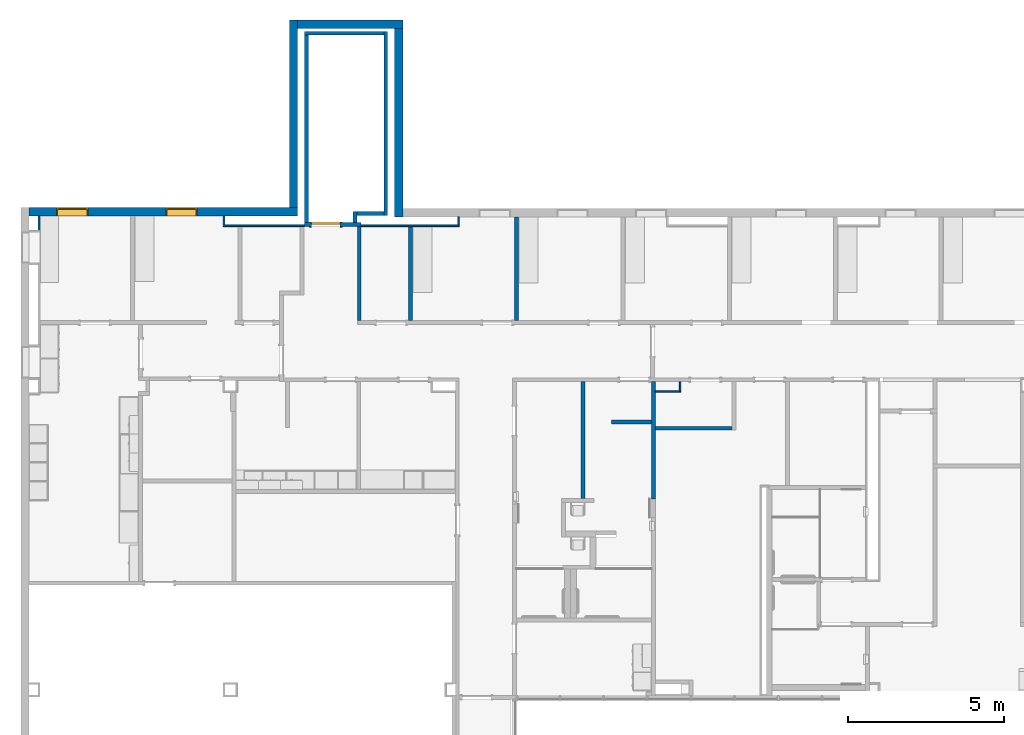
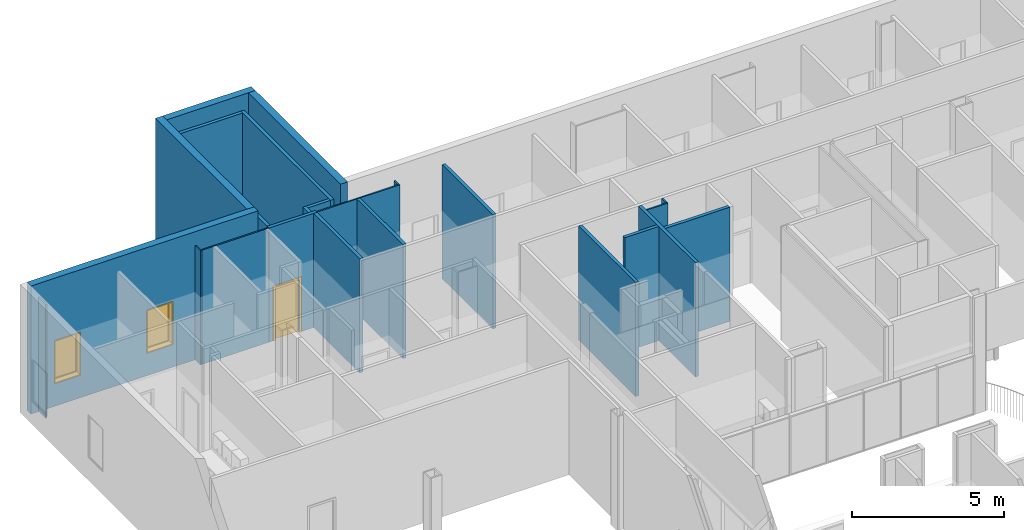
# One storey, part 21 of 47: 24 walls, 2 windows, 1 door, 3 openings.
"""IFC2X3 building model written with IfcOpenShell, lengths in metres."""

from ifc_helpers import new_model, entity, si_unit, converted_unit, frame, frame_2d, origin, origin_2d_with_axis, place, context, project, spatial, polyline, rectangle, outline, extrude, source, transform, mapped, material, layer, layer_set, layer_usage, type_object, type_shapes, element, fill, save


model = new_model("IFC2X3")

# Units and contexts
model_context = context("Model", 3, precision=1e-09, world=origin())
plan_context = context("Plan", 3, precision=1e-09, world=origin())
ifc_project = project(units=[si_unit("LENGTHUNIT", "METRE"), si_unit("AREAUNIT", "SQUARE_METRE"), si_unit("VOLUMEUNIT", "CUBIC_METRE"), converted_unit("PLANEANGLEUNIT", "DEGREE", entity("IfcRatioMeasure", 0.01745329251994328), si_unit("PLANEANGLEUNIT", "RADIAN"), dimensions=[0, 0, 0, 0, 0, 0, 0]), si_unit("TIMEUNIT", "SECOND")], contexts=[model_context, plan_context])

# Site, building, storey
site_placement = place(None, origin())
site = spatial("IfcSite", under=ifc_project, at=site_placement, Name="Default", CompositionType="ELEMENT")
building_placement = place(site_placement, origin())
building = spatial("IfcBuilding", under=site, at=building_placement, CompositionType="ELEMENT")
storey_placement = place(building_placement, frame((0.0, 0.0, 4.570000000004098)))
storey = spatial("IfcBuildingStorey", under=building, at=storey_placement, Name="Second Floor", CompositionType="ELEMENT", Elevation=4.570000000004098)

# Wall, openings, windows
ifc_material_1 = material(Name="Insulation - Insulated Panel")
ifc_layer_1 = layer(ifc_material_1, 0.042)
ifc_material_2 = material(Name="Metal - Firring")
ifc_layer_2 = layer(ifc_material_2, 0.038)
ifc_material_3 = material(Name="Wood - Sheathing - plywood")
ifc_layer_3 = layer(ifc_material_3, 0.019)
ifc_material_4 = material(Name="Metal - Stud Layer")
ifc_layer_4 = layer(ifc_material_4, 0.152)
ifc_material_5 = material(Name="Plasterboard")
ifc_layer_5 = layer(ifc_material_5, 0.016)
ifc_layer_set_1 = layer_set([ifc_layer_1, ifc_layer_2, ifc_layer_3, ifc_layer_4, ifc_layer_5], Name="Basic Wall:Exterior - Insul Panel on Mtl. Stud")
ifc_layer_usage_1 = layer_usage(ifc_layer_set_1, "AXIS2", "NEGATIVE", 0.1335)
wall_1_placement = place(storey_placement, frame((-47.11300000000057, 50.37093871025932, 0.0)))
wall_1 = element("IfcWallStandardCase", 1, at=wall_1_placement, inside=storey, material=ifc_layer_usage_1, Name="Basic Wall:Exterior - Insul Panel on Mtl. Stud", ObjectType="Basic Wall:Exterior - Insul Panel on Mtl. Stud", context=model_context, shape_type="SweptSolid", body=[
    extrude(rectangle(XDim=8.61000000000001, YDim=0.2670000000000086, at=frame_2d((4.305000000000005, 0.0), x_axis=(-1.0, 0.0))), origin(), (0.0, 0.0, 1.0), 5.136999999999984),
])
opening_1_placement = place(wall_1_placement, frame((0.8830000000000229, -0.133500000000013, 0.905)))
opening_1 = element("IfcOpeningElement", 2, at=opening_1_placement, cuts=wall_1, Name="M_Fixed:1735 x 1000mm:1735 x 1000mm:1", ObjectType="Opening", context=model_context, shape_type="SweptSolid", body=[
    extrude(rectangle(XDim=1.734999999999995, YDim=0.9999999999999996, at=frame_2d((0.8674999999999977, 0.4999999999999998), x_axis=(1.0, 0.0))), frame((0.0, 0.0, 0.0), z_axis=(0.0, 1.0, 0.0), x_axis=(0.0, 0.0, 1.0)), (0.0, 0.0, 1.0), 0.267),
])
opening_2_placement = place(wall_1_placement, frame((4.383000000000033, -0.1335000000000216, 0.905)))
opening_2 = element("IfcOpeningElement", 3, at=opening_2_placement, cuts=wall_1, Name="M_Fixed:1735 x 1000mm:1735 x 1000mm:1", ObjectType="Opening", context=model_context, shape_type="SweptSolid", body=[
    extrude(rectangle(XDim=1.734999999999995, YDim=0.9999999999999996, at=frame_2d((0.8674999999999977, 0.4999999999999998), x_axis=(1.0, 0.0))), frame((0.0, 0.0, 0.0), z_axis=(0.0, 1.0, 0.0), x_axis=(0.0, 0.0, 1.0)), (0.0, 0.0, 1.0), 0.267),
])
window_style = type_object("IfcWindowStyle", Name="1735 x 1000mm", ConstructionType="NOTDEFINED", OperationType="NOTDEFINED", ParameterTakesPrecedence=False, Sizeable=False)
shared_shape_1 = source(origin(), model_context, "Body", "SweptSolid", [
    extrude(rectangle(XDim=0.012, YDim=0.873999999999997, at=origin_2d_with_axis()), frame((0.5000000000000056, 0.2259999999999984, 0.06299999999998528), z_axis=(0.0, 0.0, 1.0), x_axis=(0.0, -1.0, 0.0)), (0.0, 0.0, 1.0), 1.609000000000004),
    extrude(outline(polyline([(-0.4809999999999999, -0.8485000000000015), (0.4809999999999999, -0.8485000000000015), (0.4809999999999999, 0.8485000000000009), (-0.4809999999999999, 0.8485000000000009), (-0.4809999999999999, -0.8485000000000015)]), holes=[polyline([(-0.4369999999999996, -0.8045000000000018), (-0.4369999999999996, 0.8045000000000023), (0.4369999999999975, 0.8045000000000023), (0.4369999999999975, -0.8045000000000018), (-0.4369999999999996, -0.8045000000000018)])]), frame((0.5000000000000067, 0.203999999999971, 0.8674999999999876), z_axis=(0.0, 1.0, 0.0), x_axis=(1.0, 0.0, 0.0)), (0.0, 0.0, 1.0), 0.04400000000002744),
    extrude(outline(polyline([(-0.4999999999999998, -0.8674999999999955), (0.4999999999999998, -0.8674999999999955), (0.4999999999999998, 0.8674999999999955), (-0.4999999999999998, 0.8674999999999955), (-0.4999999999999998, -0.8674999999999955)]), holes=[polyline([(-0.4810000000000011, -0.8484999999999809), (-0.4810000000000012, 0.8485000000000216), (0.4809999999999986, 0.8485000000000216), (0.4809999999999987, -0.8484999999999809), (-0.4810000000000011, -0.8484999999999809)])]), frame((0.500000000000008, 0.203999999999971, 0.8675000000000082), z_axis=(0.0, 1.0, 0.0), x_axis=(1.0, 0.0, 0.0)), (0.0, 0.0, 1.0), 0.06300000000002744),
    extrude(outline(polyline([(-0.5000000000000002, -0.867499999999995), (0.5000000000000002, -0.867499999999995), (0.5000000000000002, 0.867499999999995), (-0.5000000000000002, 0.867499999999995), (-0.5000000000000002, -0.867499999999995)]), holes=[polyline([(-0.4679999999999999, -0.8354999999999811), (-0.4679999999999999, 0.8355000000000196), (0.4680000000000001, 0.8355000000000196), (0.4680000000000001, -0.8354999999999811), (-0.4679999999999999, -0.8354999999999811)])]), frame((0.5000000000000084, 0.0, 0.8675000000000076), z_axis=(0.0, 1.0, 0.0), x_axis=(1.0, 0.0, 0.0)), (0.0, 0.0, 1.0), 0.2039999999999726),
])
type_shapes(window_style, [shared_shape_1])
window_1_placement = place(opening_1_placement, origin())
window_1 = element("IfcWindow", 4, at=window_1_placement, inside=storey, type_object=window_style, Name="M_Fixed:1735 x 1000mm:1735 x 1000mm", ObjectType="1735 x 1000mm", OverallHeight=1.734999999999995, OverallWidth=0.9999999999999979, context=model_context, shape_type="MappedRepresentation", body=[
    mapped(shared_shape_1, transform((0.0, 0.0, 0.0), scale=1.0)),
])
fill(opening_1, window_1)
window_2_placement = place(opening_2_placement, origin())
window_2 = element("IfcWindow", 5, at=window_2_placement, inside=storey, type_object=window_style, Name="M_Fixed:1735 x 1000mm:1735 x 1000mm", ObjectType="1735 x 1000mm", OverallHeight=1.734999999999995, OverallWidth=0.9999999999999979, context=model_context, shape_type="MappedRepresentation", body=[
    mapped(shared_shape_1, transform((0.0, 0.0, 0.0), scale=1.0)),
])
fill(opening_2, window_2)

# Walls
ifc_layer_usage_2 = layer_usage(ifc_layer_set_1, "AXIS2", "NEGATIVE", 0.1335)
wall_2_placement = place(storey_placement, frame((-38.63650000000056, 50.50443871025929, 0.0), z_axis=(0.0, 0.0, 1.0), x_axis=(0.0, 1.0, 0.0)))
element("IfcWallStandardCase", 6, at=wall_2_placement, inside=storey, material=ifc_layer_usage_2, Name="Basic Wall:Exterior - Insul Panel on Mtl. Stud", ObjectType="Basic Wall:Exterior - Insul Panel on Mtl. Stud", context=model_context, shape_type="SweptSolid", body=[
    extrude(rectangle(XDim=6.015561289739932, YDim=0.267, at=frame_2d((3.007780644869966, 0.0), x_axis=(-1.0, 0.0))), origin(), (0.0, 0.0, 1.0), 5.136999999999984),
])
ifc_layer_usage_3 = layer_usage(ifc_layer_set_1, "AXIS2", "NEGATIVE", 0.1335)
wall_3_placement = place(storey_placement, frame((-38.50300000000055, 56.38649999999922, 0.0)))
element("IfcWallStandardCase", 7, at=wall_3_placement, inside=storey, material=ifc_layer_usage_3, Name="Basic Wall:Exterior - Insul Panel on Mtl. Stud", ObjectType="Basic Wall:Exterior - Insul Panel on Mtl. Stud", context=model_context, shape_type="SweptSolid", body=[
    extrude(rectangle(XDim=3.372999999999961, YDim=0.2670000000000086, at=frame_2d((1.68649999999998, 0.0), x_axis=(-1.0, 0.0))), origin(), (0.0, 0.0, 1.0), 5.136999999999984),
])
ifc_layer_usage_4 = layer_usage(ifc_layer_set_1, "AXIS2", "NEGATIVE", 0.1335)
wall_4_placement = place(storey_placement, frame((-35.26350000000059, 56.25299999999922, 0.0), z_axis=(0.0, 0.0, 1.0), x_axis=(0.0, -1.0, 0.0)))
element("IfcWallStandardCase", 8, at=wall_4_placement, inside=storey, material=ifc_layer_usage_4, Name="Basic Wall:Exterior - Insul Panel on Mtl. Stud", ObjectType="Basic Wall:Exterior - Insul Panel on Mtl. Stud", context=model_context, shape_type="SweptSolid", body=[
    extrude(rectangle(XDim=6.049999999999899, YDim=0.267, at=frame_2d((3.024999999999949, 0.0), x_axis=(-1.0, 0.0))), origin(), (0.0, 0.0, 1.0), 5.136999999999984),
])
ifc_material_6 = material(Name="Type-X Plasterboard")
ifc_layer_6 = layer(ifc_material_6, 0.016)
ifc_layer_7 = layer(ifc_material_4, 0.092)
ifc_layer_8 = layer(ifc_material_6, 0.016)
ifc_layer_set_2 = layer_set([ifc_layer_6, ifc_layer_7, ifc_layer_8], Name="Basic Wall:Interior - Rated 1-HR (92mm Stud)")
ifc_layer_usage_5 = layer_usage(ifc_layer_set_2, "AXIS2", "NEGATIVE", 0.06200000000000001)
wall_5_placement = place(storey_placement, frame((-35.67800113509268, 50.25443971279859, 0.0), z_axis=(0.0, 0.0, 1.0), x_axis=(0.0, 1.0, 0.0)))
element("IfcWallStandardCase", 9, at=wall_5_placement, inside=storey, material=ifc_layer_usage_5, Name="Basic Wall:Interior - Rated 1-HR (92mm Stud)", ObjectType="Basic Wall:Interior - Rated 1-HR (92mm Stud)", context=model_context, shape_type="SweptSolid", body=[
    extrude(rectangle(XDim=5.903998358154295, YDim=0.1239999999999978, at=frame_2d((2.951999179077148, 0.0), x_axis=(-1.0, 0.0))), origin(), (0.0, 0.0, 1.0), 4.577999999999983),
])
ifc_layer_usage_6 = layer_usage(ifc_layer_set_2, "AXIS2", "NEGATIVE", 0.06200000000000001)
wall_6_placement = place(storey_placement, frame((-35.74000113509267, 56.09643807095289, 0.0), z_axis=(0.0, 0.0, 1.0), x_axis=(-1.0, 0.0, 0.0)))
element("IfcWallStandardCase", 10, at=wall_6_placement, inside=storey, material=ifc_layer_usage_6, Name="Basic Wall:Interior - Rated 1-HR (92mm Stud)", ObjectType="Basic Wall:Interior - Rated 1-HR (92mm Stud)", context=model_context, shape_type="SweptSolid", body=[
    extrude(rectangle(XDim=2.543998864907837, YDim=0.1240000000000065, at=frame_2d((1.271999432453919, 0.0), x_axis=(-1.0, 0.0))), origin(), (0.0, 0.0, 1.0), 4.577999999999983),
])
ifc_layer_usage_7 = layer_usage(ifc_layer_set_2, "AXIS2", "NEGATIVE", 0.06200000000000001)
wall_7_placement = place(storey_placement, frame((-38.22200000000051, 56.03443807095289, 0.0), z_axis=(0.0, 0.0, 1.0), x_axis=(0.0, -1.0, 0.0)))
element("IfcWallStandardCase", 11, at=wall_7_placement, inside=storey, material=ifc_layer_usage_7, Name="Basic Wall:Interior - Rated 1-HR (92mm Stud)", ObjectType="Basic Wall:Interior - Rated 1-HR (92mm Stud)", context=model_context, shape_type="SweptSolid", body=[
    extrude(rectangle(XDim=6.015999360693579, YDim=0.1239999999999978, at=frame_2d((3.007999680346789, 0.0), x_axis=(-1.0, 0.0))), origin(), (0.0, 0.0, 1.0), 4.577999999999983),
])
ifc_layer_usage_8 = layer_usage(ifc_layer_set_2, "AXIS2", "NEGATIVE", 0.06200000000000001)
wall_8_placement = place(storey_placement, frame((-35.74000113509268, 50.31643971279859, 0.0), z_axis=(0.0, 0.0, 1.0), x_axis=(-1.0, 0.0, 0.0)))
element("IfcWallStandardCase", 12, at=wall_8_placement, inside=storey, material=ifc_layer_usage_8, Name="Basic Wall:Interior - Rated 1-HR (92mm Stud)", ObjectType="Basic Wall:Interior - Rated 1-HR (92mm Stud)", context=model_context, shape_type="SweptSolid", body=[
    extrude(rectangle(XDim=0.8599988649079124, YDim=0.1240000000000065, at=frame_2d((0.4299994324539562, 0.0), x_axis=(-1.0, 0.0))), origin(), (0.0, 0.0, 1.0), 4.577999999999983),
])
ifc_layer_usage_9 = layer_usage(ifc_layer_set_2, "AXIS2", "NEGATIVE", 0.06200000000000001)
wall_9_placement = place(storey_placement, frame((-36.66200000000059, 50.37843971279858, 0.0), z_axis=(0.0, 0.0, 1.0), x_axis=(0.0, -1.0, 0.0)))
element("IfcWallStandardCase", 13, at=wall_9_placement, inside=storey, material=ifc_layer_usage_9, Name="Basic Wall:Interior - Rated 1-HR (92mm Stud)", ObjectType="Basic Wall:Interior - Rated 1-HR (92mm Stud)", context=model_context, shape_type="SweptSolid", body=[
    extrude(rectangle(XDim=0.3600010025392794, YDim=0.1239999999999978, at=frame_2d((0.1800005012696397, 0.0), x_axis=(-1.0, 0.0))), origin(), (0.0, 0.0, 1.0), 4.577999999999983),
])

# Wall, opening, door
ifc_layer_usage_10 = layer_usage(ifc_layer_set_2, "AXIS2", "NEGATIVE", 0.06200000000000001)
wall_10_placement = place(storey_placement, frame((-36.46600000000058, 49.95643871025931, 0.0), z_axis=(0.0, 0.0, 1.0), x_axis=(-1.0, 0.0, 0.0)))
wall_10 = element("IfcWallStandardCase", 14, at=wall_10_placement, inside=storey, material=ifc_layer_usage_10, Name="Basic Wall:Interior - Rated 1-HR (92mm Stud)", ObjectType="Basic Wall:Interior - Rated 1-HR (92mm Stud)", context=model_context, shape_type="SweptSolid", body=[
    extrude(rectangle(XDim=1.817999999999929, YDim=0.1240000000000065, at=frame_2d((0.9089999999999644, 0.0), x_axis=(-1.0, 0.0))), origin(), (0.0, 0.0, 1.0), 4.577999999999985),
])
opening_3_placement = place(wall_10_placement, frame((1.593999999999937, 0.06199999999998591, 0.0)))
opening_3 = element("IfcOpeningElement", 15, at=opening_3_placement, cuts=wall_10, Name="M_Single-Flush:0915 x 2134mm Rated:0915 x 2134mm Rated:1", ObjectType="Opening", context=model_context, shape_type="SweptSolid", body=[
    extrude(rectangle(XDim=0.9149999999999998, YDim=2.134, at=frame_2d((1.067, 0.4575000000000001), x_axis=(0.0, -1.0))), frame((0.0, 0.0, 0.0), z_axis=(0.0, -1.0, 0.0), x_axis=(0.0, 0.0, 1.0)), (0.0, 0.0, 1.0), 0.124),
])
door_style = type_object("IfcDoorStyle", Name="0915 x 2134mm Rated", ConstructionType="NOTDEFINED", OperationType="SINGLE_SWING_LEFT", ParameterTakesPrecedence=False, Sizeable=False)
shared_shape_2 = source(origin(), model_context, "Body", "SweptSolid", [
    extrude(outline(polyline([(-0.5335, -1.123999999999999), (0.5334999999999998, -1.123999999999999), (0.5334999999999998, 1.086), (0.4574999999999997, 1.086), (0.4574999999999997, -1.048000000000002), (-0.4574999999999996, -1.048000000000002), (-0.4574999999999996, 1.086), (-0.5335, 1.086), (-0.5335, -1.123999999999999)])), frame((0.4575000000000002, 0.1489999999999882, 1.086), z_axis=(0.0, -1.0, 0.0), x_axis=(-1.0, 0.0, 0.0)), (0.0, 0.0, 1.0), 0.02499999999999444),
    extrude(outline(polyline([(-1.123999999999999, -0.5334999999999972), (1.085999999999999, -0.5334999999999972), (1.085999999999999, -0.4575000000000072), (-1.048, -0.4575000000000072), (-1.048, 0.4575000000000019), (1.085999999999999, 0.4575000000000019), (1.085999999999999, 0.5335000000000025), (-1.123999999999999, 0.5335000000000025), (-1.123999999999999, -0.5334999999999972)])), frame((0.4574999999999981, 0.0, 1.085999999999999), z_axis=(0.0, -1.0, 0.0), x_axis=(0.0, 0.0, -1.0)), (0.0, 0.0, 1.0), 0.02500000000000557),
    extrude(rectangle(XDim=0.9149999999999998, YDim=0.051, at=origin_2d_with_axis()), frame((0.4575000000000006, 0.09849999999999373, 0.0)), (0.0, 0.0, 1.0), 2.133999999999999),
])
type_shapes(door_style, [shared_shape_2])
door_placement = place(opening_3_placement, frame((0.0, 0.0, 0.0), z_axis=(0.0, 0.0, 1.0), x_axis=(-1.0, 0.0, 0.0)))
door = element("IfcDoor", 16, at=door_placement, inside=storey, type_object=door_style, Name="M_Single-Flush:0915 x 2134mm Rated:0915 x 2134mm Rated", ObjectType="0915 x 2134mm Rated", OverallHeight=2.134, OverallWidth=0.9149999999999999, context=model_context, shape_type="MappedRepresentation", body=[
    mapped(shared_shape_2, transform((0.0, 0.0, 0.0), scale=1.0)),
])
fill(opening_3, door)

# Walls
ifc_layer_9 = layer(ifc_material_5, 0.016)
ifc_layer_10 = layer(ifc_material_4, 0.092)
ifc_layer_11 = layer(ifc_material_5, 0.016)
ifc_layer_set_3 = layer_set([ifc_layer_9, ifc_layer_10, ifc_layer_11], Name="Basic Wall:Interior - Partition (92mm Stud)")
ifc_layer_usage_11 = layer_usage(ifc_layer_set_3, "AXIS2", "NEGATIVE", 0.062)
wall_11_placement = place(storey_placement, frame((-36.5280000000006, 46.87843871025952, 0.0), z_axis=(0.0, 0.0, 1.0), x_axis=(0.0, 1.0, 0.0)))
element("IfcWallStandardCase", 17, at=wall_11_placement, inside=storey, material=ifc_layer_usage_11, Name="Basic Wall:Interior - Partition (92mm Stud)", ObjectType="Basic Wall:Interior - Partition (92mm Stud)", context=model_context, shape_type="SweptSolid", body=[
    extrude(rectangle(XDim=3.015999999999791, YDim=0.1239999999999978, at=frame_2d((1.507999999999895, 0.0), x_axis=(-1.0, 0.0))), origin(), (0.0, 0.0, 1.0), 4.577999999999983),
])
ifc_layer_usage_12 = layer_usage(ifc_layer_set_3, "AXIS2", "NEGATIVE", 0.062)
wall_12_placement = place(storey_placement, frame((-34.88800000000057, 46.87843871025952, 0.0), z_axis=(0.0, 0.0, 1.0), x_axis=(0.0, 1.0, 0.0)))
element("IfcWallStandardCase", 18, at=wall_12_placement, inside=storey, material=ifc_layer_usage_12, Name="Basic Wall:Interior - Partition (92mm Stud)", ObjectType="Basic Wall:Interior - Partition (92mm Stud)", context=model_context, shape_type="SweptSolid", body=[
    extrude(rectangle(XDim=3.0159999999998, YDim=0.1239999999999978, at=frame_2d((1.5079999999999, 0.0), x_axis=(-1.0, 0.0))), origin(), (0.0, 0.0, 1.0), 4.577999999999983),
])
ifc_layer_usage_13 = layer_usage(ifc_layer_set_3, "AXIS2", "NEGATIVE", 0.062)
wall_13_placement = place(storey_placement, frame((-31.47800000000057, 46.8784387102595, 0.0), z_axis=(0.0, 0.0, 1.0), x_axis=(0.0, 1.0, 0.0)))
element("IfcWallStandardCase", 19, at=wall_13_placement, inside=storey, material=ifc_layer_usage_13, Name="Basic Wall:Interior - Partition (92mm Stud)", ObjectType="Basic Wall:Interior - Partition (92mm Stud)", context=model_context, shape_type="SweptSolid", body=[
    extrude(rectangle(XDim=3.324561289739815, YDim=0.1239999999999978, at=frame_2d((1.662280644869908, 0.0), x_axis=(-1.0, 0.0))), origin(), (0.0, 0.0, 1.0), 4.577999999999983),
])
ifc_layer_usage_14 = layer_usage(ifc_layer_set_3, "AXIS2", "NEGATIVE", 0.062)
wall_14_placement = place(storey_placement, frame((-29.35200000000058, 44.92043871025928, 0.0), z_axis=(0.0, 0.0, 1.0), x_axis=(0.0, -1.0, 0.0)))
element("IfcWallStandardCase", 20, at=wall_14_placement, inside=storey, material=ifc_layer_usage_14, Name="Basic Wall:Interior - Partition (92mm Stud)", ObjectType="Basic Wall:Interior - Partition (92mm Stud)", context=model_context, shape_type="SweptSolid", body=[
    extrude(rectangle(XDim=3.749891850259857, YDim=0.1239999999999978, at=frame_2d((1.874945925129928, 0.0), x_axis=(-1.0, 0.0))), origin(), (0.0, 0.0, 1.0), 4.577999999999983),
])
ifc_layer_usage_15 = layer_usage(ifc_layer_set_3, "AXIS2", "NEGATIVE", 0.062)
wall_15_placement = place(storey_placement, frame((-28.44000000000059, 43.63243871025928, 0.0)))
element("IfcWallStandardCase", 21, at=wall_15_placement, inside=storey, material=ifc_layer_usage_15, Name="Basic Wall:Interior - Partition (92mm Stud)", ObjectType="Basic Wall:Interior - Partition (92mm Stud)", context=model_context, shape_type="SweptSolid", body=[
    extrude(rectangle(XDim=1.290000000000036, YDim=0.1240000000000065, at=frame_2d((0.6450000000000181, 0.0), x_axis=(-1.0, 0.0))), origin(), (0.0, 0.0, 1.0), 4.577999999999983),
])
ifc_layer_usage_16 = layer_usage(ifc_layer_set_3, "AXIS2", "NEGATIVE", 0.062)
wall_16_placement = place(storey_placement, frame((-24.57400000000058, 43.4264387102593, 0.0), z_axis=(0.0, 0.0, 1.0), x_axis=(-1.0, 0.0, 0.0)))
element("IfcWallStandardCase", 22, at=wall_16_placement, inside=storey, material=ifc_layer_usage_16, Name="Basic Wall:Interior - Partition (92mm Stud)", ObjectType="Basic Wall:Interior - Partition (92mm Stud)", context=model_context, shape_type="SweptSolid", body=[
    extrude(rectangle(XDim=2.451999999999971, YDim=0.1240000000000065, at=frame_2d((1.225999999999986, 0.0), x_axis=(-1.0, 0.0))), origin(), (0.0, 0.0, 1.0), 4.577999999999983),
])
ifc_layer_12 = layer(ifc_material_4, 0.038)
ifc_layer_13 = layer(ifc_material_5, 0.016)
ifc_layer_set_4 = layer_set([ifc_layer_12, ifc_layer_13], Name="Basic Wall:Interior - Furring (38 mm Stud)")
ifc_layer_usage_17 = layer_usage(ifc_layer_set_4, "AXIS2", "NEGATIVE", 0.027)
wall_17_placement = place(storey_placement, frame((-27.02600000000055, 44.6114387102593, 0.0)))
element("IfcWallStandardCase", 23, at=wall_17_placement, inside=storey, material=ifc_layer_usage_17, Name="Basic Wall:Interior - Furring (38 mm Stud)", ObjectType="Basic Wall:Interior - Furring (38 mm Stud)", context=model_context, shape_type="SweptSolid", body=[
    extrude(rectangle(XDim=0.8159999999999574, YDim=0.05400000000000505, at=frame_2d((0.4079999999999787, 0.0), x_axis=(-1.0, 0.0))), origin(), (0.0, 0.0, 1.0), 4.577999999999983),
])
ifc_layer_usage_18 = layer_usage(ifc_layer_set_4, "AXIS2", "NEGATIVE", 0.027)
wall_18_placement = place(storey_placement, frame((-26.2370000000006, 44.63843871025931, 0.0), z_axis=(0.0, 0.0, 1.0), x_axis=(0.0, 1.0, 0.0)))
element("IfcWallStandardCase", 24, at=wall_18_placement, inside=storey, material=ifc_layer_usage_18, Name="Basic Wall:Interior - Furring (38 mm Stud)", ObjectType="Basic Wall:Interior - Furring (38 mm Stud)", context=model_context, shape_type="SweptSolid", body=[
    extrude(rectangle(XDim=0.2819999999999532, YDim=0.05399999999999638, at=frame_2d((0.1409999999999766, 0.0), x_axis=(-1.0, 0.0))), origin(), (0.0, 0.0, 1.0), 4.577999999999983),
])
ifc_layer_usage_19 = layer_usage(ifc_layer_set_4, "AXIS2", "NEGATIVE", 0.027)
wall_19_placement = place(storey_placement, frame((-46.79700000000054, 49.77644628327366, 0.0), z_axis=(0.0, 0.0, 1.0), x_axis=(0.0, 1.0, 0.0)))
element("IfcWallStandardCase", 25, at=wall_19_placement, inside=storey, material=ifc_layer_usage_19, Name="Basic Wall:Interior - Furring (38 mm Stud)", ObjectType="Basic Wall:Interior - Furring (38 mm Stud)", context=model_context, shape_type="SweptSolid", body=[
    extrude(rectangle(XDim=0.4609924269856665, YDim=0.05400000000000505, at=frame_2d((0.2304962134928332, 0.0), x_axis=(-1.0, 0.0))), origin(), (0.0, 0.0, 1.0), 4.577999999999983),
])
ifc_layer_usage_20 = layer_usage(ifc_layer_set_4, "AXIS2", "NEGATIVE", 0.027)
wall_20_placement = place(storey_placement, frame((-40.86300000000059, 50.23743871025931, 0.0), z_axis=(0.0, 0.0, 1.0), x_axis=(0.0, -1.0, 0.0)))
element("IfcWallStandardCase", 26, at=wall_20_placement, inside=storey, material=ifc_layer_usage_20, Name="Basic Wall:Interior - Furring (38 mm Stud)", ObjectType="Basic Wall:Interior - Furring (38 mm Stud)", context=model_context, shape_type="SweptSolid", body=[
    extrude(rectangle(XDim=0.342999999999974, YDim=0.05400000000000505, at=frame_2d((0.171499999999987, 0.0), x_axis=(-1.0, 0.0))), origin(), (0.0, 0.0, 1.0), 4.577999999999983),
])
ifc_layer_usage_21 = layer_usage(ifc_layer_set_4, "AXIS2", "NEGATIVE", 0.027)
wall_21_placement = place(storey_placement, frame((-40.83600000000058, 49.92143871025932, 0.0)))
element("IfcWallStandardCase", 27, at=wall_21_placement, inside=storey, material=ifc_layer_usage_21, Name="Basic Wall:Interior - Furring (38 mm Stud)", ObjectType="Basic Wall:Interior - Furring (38 mm Stud)", context=model_context, shape_type="SweptSolid", body=[
    extrude(rectangle(XDim=2.55200000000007, YDim=0.05400000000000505, at=frame_2d((1.276000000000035, 0.0), x_axis=(-1.0, 0.0))), origin(), (0.0, 0.0, 1.0), 4.577999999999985),
])
ifc_layer_usage_22 = layer_usage(ifc_layer_set_4, "AXIS2", "NEGATIVE", 0.027)
wall_22_placement = place(storey_placement, frame((-36.46600000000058, 49.92143871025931, 0.0)))
element("IfcWallStandardCase", 28, at=wall_22_placement, inside=storey, material=ifc_layer_usage_22, Name="Basic Wall:Interior - Furring (38 mm Stud)", ObjectType="Basic Wall:Interior - Furring (38 mm Stud)", context=model_context, shape_type="SweptSolid", body=[
    extrude(rectangle(XDim=3.145999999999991, YDim=0.05400000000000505, at=frame_2d((1.572999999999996, 0.0), x_axis=(-1.0, 0.0))), origin(), (0.0, 0.0, 1.0), 4.577999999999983),
])
ifc_layer_usage_23 = layer_usage(ifc_layer_set_4, "AXIS2", "NEGATIVE", 0.027)
wall_23_placement = place(storey_placement, frame((-33.3470000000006, 49.9484387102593, 0.0), z_axis=(0.0, 0.0, 1.0), x_axis=(0.0, 1.0, 0.0)))
element("IfcWallStandardCase", 29, at=wall_23_placement, inside=storey, material=ifc_layer_usage_23, Name="Basic Wall:Interior - Furring (38 mm Stud)", ObjectType="Basic Wall:Interior - Furring (38 mm Stud)", context=model_context, shape_type="SweptSolid", body=[
    extrude(rectangle(XDim=0.2545612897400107, YDim=0.05399999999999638, at=frame_2d((0.1272806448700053, 0.0), x_axis=(-1.0, 0.0))), origin(), (0.0, 0.0, 1.0), 4.577999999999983),
])
ifc_layer_usage_24 = layer_usage(ifc_layer_set_3, "AXIS2", "NEGATIVE", 0.062)
wall_24_placement = place(storey_placement, frame((-27.08800000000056, 41.1644387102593, 0.0), z_axis=(0.0, 0.0, 1.0), x_axis=(0.0, 1.0, 0.0)))
element("IfcWallStandardCase", 30, at=wall_24_placement, inside=storey, material=ifc_layer_usage_24, Name="Basic Wall:Interior - Partition (92mm Stud)", ObjectType="Basic Wall:Interior - Partition (92mm Stud)", context=model_context, shape_type="SweptSolid", body=[
    extrude(rectangle(XDim=3.755999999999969, YDim=0.1239999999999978, at=frame_2d((1.877999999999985, 0.0), x_axis=(-1.0, 0.0))), origin(), (0.0, 0.0, 1.0), 4.577999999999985),
])

save(model, "model.ifc")
